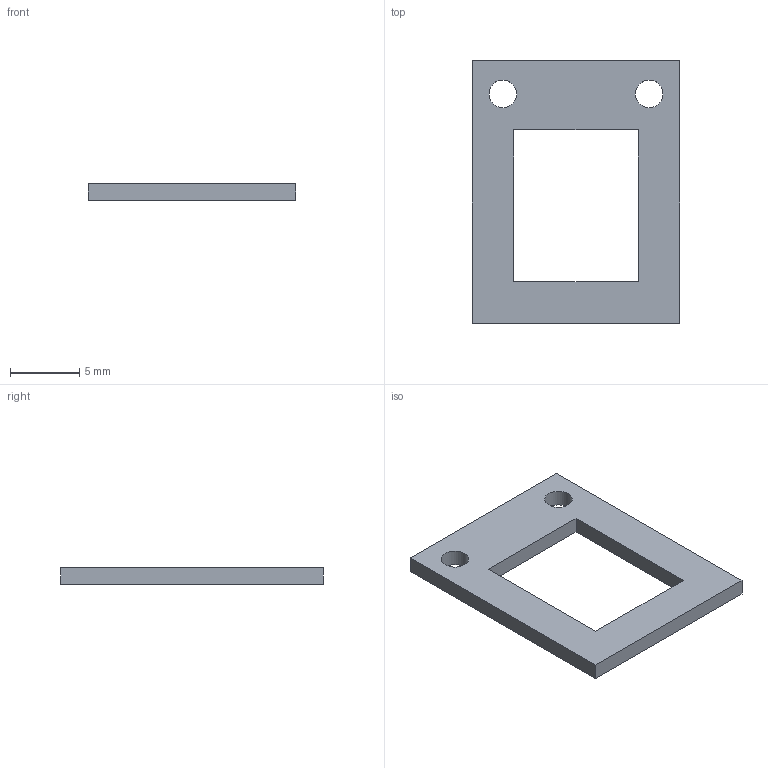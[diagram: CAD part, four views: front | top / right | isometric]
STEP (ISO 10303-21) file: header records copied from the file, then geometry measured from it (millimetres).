
FILE_DESCRIPTION(('Open CASCADE Model'),'2;1');
FILE_NAME('Open CASCADE Shape Model','2026-11-14T12:48:49',('Author'),( 'Open CASCADE'),'Open CASCADE STEP processor 7.9','Open CASCADE 7.9' ,'Unknown');
FILE_SCHEMA(('AUTOMOTIVE_DESIGN { 1 0 10303 214 1 1 1 1 }'));
Length unit declared in the file: millimetre
Products named in the file (1): Open CASCADE STEP translator 7.9 3
Bounding box: 15 x 19 x 1.2 mm (x, y, z)
Volume: 215.7 mm3; surface area: 504.1 mm2
Topology: 1 solids, 1 shells, 12 faces, 30 edges, 20 vertices
Faces by surface type: plane 10, cylinder 2
Full cylindrical faces by diameter (mm): 2 x2
Entity records: 782 total; most frequent: CARTESIAN_POINT 147, DIRECTION 116, LINE 82, VECTOR 82, ORIENTED_EDGE 60, PCURVE 60, DEFINITIONAL_REPRESENTATION 60, EDGE_CURVE 30
